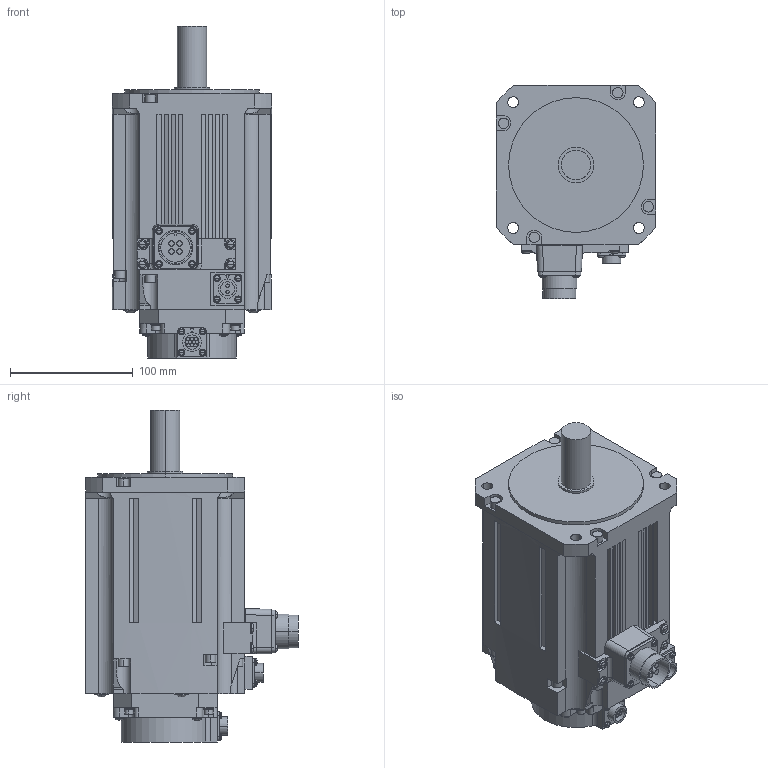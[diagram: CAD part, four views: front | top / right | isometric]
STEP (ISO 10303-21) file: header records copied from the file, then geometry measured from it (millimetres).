
FILE_DESCRIPTION((''),'2;1');
FILE_NAME('HK-ST302WB_','2019-01-18T',('XE90682'),(''),'CREO PARAMETRIC BY PTC INC, 2016380','CREO PARAMETRIC BY PTC INC, 2016380','');
FILE_SCHEMA(('CONFIG_CONTROL_DESIGN'));
Length unit declared in the file: millimetre
Products named in the file (1): HK-ST302WB_
Bounding box: 130 x 173.8 x 271 mm (x, y, z)
Volume: 2924363 mm3; surface area: 165046.2 mm2
Topology: 1 solids, 1 shells, 624 faces, 1534 edges, 968 vertices
Faces by surface type: plane 305, cylinder 223, sphere 46, torus 40, cone 8, bspline 2
Entity records: 19091 total; most frequent: CARTESIAN_POINT 4021, DIRECTION 3306, ORIENTED_EDGE 2988, EDGE_CURVE 1494, AXIS2_PLACEMENT_3D 1234, VERTEX_POINT 968, VECTOR 838, LINE 838
